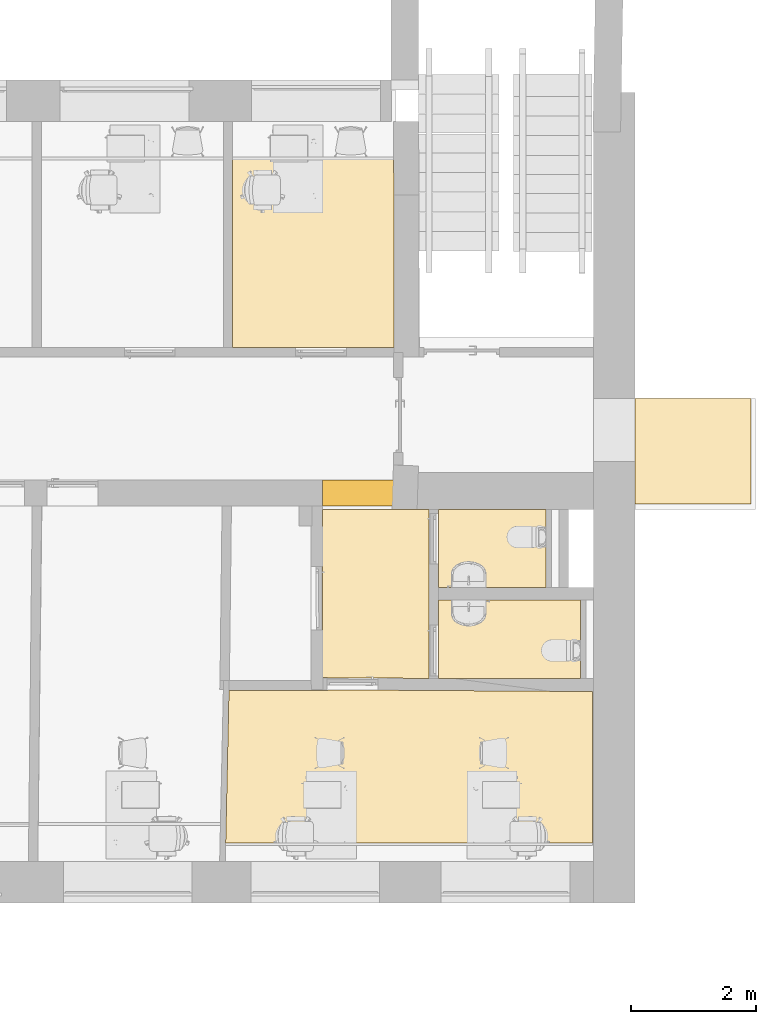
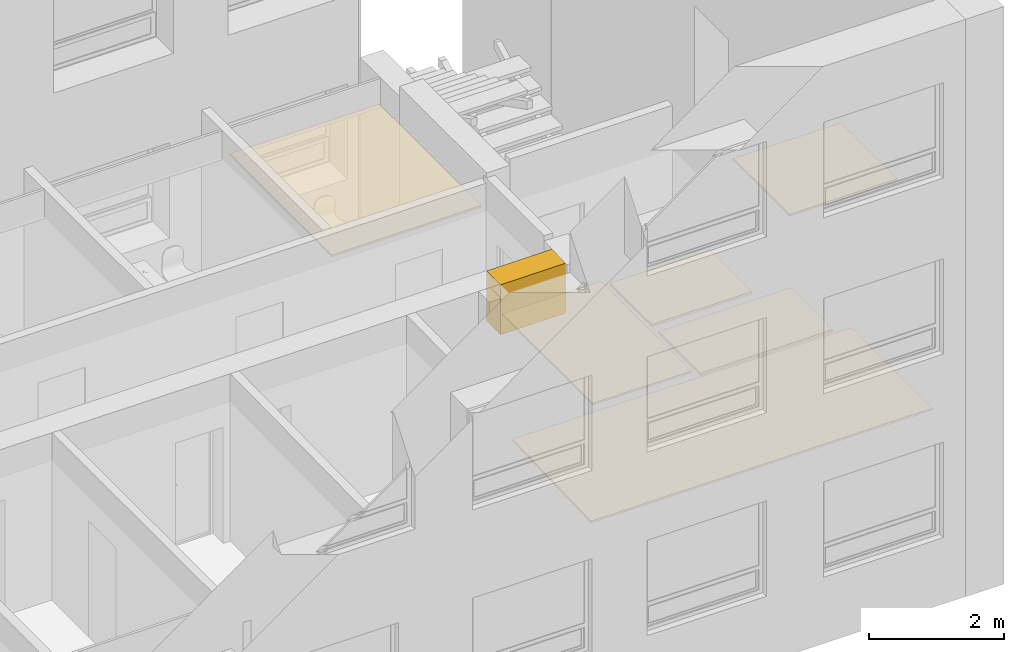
# One storey, part 21 of 25: 7 coverings.
"""IFC2X3 building model written with IfcOpenShell, lengths in millimetres."""

from ifc_helpers import new_model, entity, si_unit, converted_unit, derived_unit, direction, frame, frame_2d, origin, place, context, subcontext, project, spatial, polyline, rectangle, outline, extrude, material, layer, layer_set, layer_usage, element, save


model = new_model("IFC2X3")

# Units and contexts
model_context = context("Model", 3, precision=0.01, world=origin(), true_north=direction((6.12303176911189e-17, 1.0)))
context_of_model = context(None, 3, precision=0.01, world=origin(), true_north=direction((6.12303176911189e-17, 1.0)))
body_context = subcontext(model_context, "Body", "Model", "MODEL_VIEW")
ifc_project = project(units=[si_unit("LENGTHUNIT", "METRE", prefix="MILLI"), si_unit("AREAUNIT", "SQUARE_METRE"), si_unit("VOLUMEUNIT", "CUBIC_METRE"), converted_unit("PLANEANGLEUNIT", "DEGREE", entity("IfcRatioMeasure", 0.0174532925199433), si_unit("PLANEANGLEUNIT", "RADIAN"), dimensions=[0, 0, 0, 0, 0, 0, 0]), si_unit("MASSUNIT", "GRAM", prefix="KILO"), derived_unit("MASSDENSITYUNIT", [(si_unit("MASSUNIT", "GRAM", prefix="KILO"), 1), (si_unit("LENGTHUNIT", "METRE"), -3)]), si_unit("TIMEUNIT", "SECOND"), si_unit("FREQUENCYUNIT", "HERTZ"), si_unit("THERMODYNAMICTEMPERATUREUNIT", "DEGREE_CELSIUS"), derived_unit("THERMALTRANSMITTANCEUNIT", [(si_unit("MASSUNIT", "GRAM", prefix="KILO"), 1), (si_unit("THERMODYNAMICTEMPERATUREUNIT", "KELVIN"), -1), (si_unit("TIMEUNIT", "SECOND"), -3)]), derived_unit("VOLUMETRICFLOWRATEUNIT", [(si_unit("LENGTHUNIT", "METRE"), 3), (si_unit("TIMEUNIT", "SECOND"), -1)]), si_unit("ELECTRICCURRENTUNIT", "AMPERE"), si_unit("ELECTRICVOLTAGEUNIT", "VOLT"), si_unit("POWERUNIT", "WATT"), si_unit("FORCEUNIT", "NEWTON", prefix="KILO"), si_unit("ILLUMINANCEUNIT", "LUX"), si_unit("LUMINOUSFLUXUNIT", "LUMEN"), si_unit("LUMINOUSINTENSITYUNIT", "CANDELA"), derived_unit("USERDEFINED", [(si_unit("MASSUNIT", "GRAM", prefix="KILO"), -1), (si_unit("LENGTHUNIT", "METRE"), -2), (si_unit("TIMEUNIT", "SECOND"), 3), (si_unit("LUMINOUSFLUXUNIT", "LUMEN"), 1)]), derived_unit("LINEARVELOCITYUNIT", [(si_unit("LENGTHUNIT", "METRE"), 1), (si_unit("TIMEUNIT", "SECOND"), -1)]), si_unit("PRESSUREUNIT", "PASCAL"), derived_unit("USERDEFINED", [(si_unit("LENGTHUNIT", "METRE"), -2), (si_unit("MASSUNIT", "GRAM", prefix="KILO"), 1), (si_unit("TIMEUNIT", "SECOND"), -2)])], contexts=[model_context, context_of_model])

# Site, building, storey
site_placement = place(None, frame((121442.264707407, 135347.995453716, -1800.0)))
site = spatial("IfcSite", under=ifc_project, at=site_placement, Name="Surface", CompositionType="ELEMENT")
building_placement = place(site_placement, origin())
building = spatial("IfcBuilding", under=site, at=building_placement, CompositionType="ELEMENT")
storey_placement = place(building_placement, frame((0.0, 0.0, 1800.0)))
storey = spatial("IfcBuildingStorey", under=building, at=storey_placement, Name="1 korrus", CompositionType="ELEMENT", Elevation=1800.00000000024)

# Coverings
covering_1_placement = place(storey_placement, origin())
element("IfcCovering", 1, at=covering_1_placement, inside=storey, Name="Ceilings 15:Ceilings 15", ObjectType="Ceilings 15:Ceilings 15", PredefinedType="CEILING", context=body_context, shape_type="SweptSolid", body=[
    extrude(outline(polyline([(-567.72069098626, -208.61999355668), (561.529650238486, -208.61999355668), (560.416384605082, 208.61999355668), (-554.225343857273, 208.61999355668), (-567.72069098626, -208.61999355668)])), frame((-86283.7571484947, -121262.679862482, 2122.80512963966), z_axis=(0.0, 0.0, 1.0), x_axis=(-1.0, 0.0, 0.0)), (0.0, 0.0, 1.0), 903.003486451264),
])
ifc_material_1 = material(Name="EST. Ripplagi. Moodullagi. 600 x 600 mm")
ifc_layer_1 = layer(ifc_material_1, 35.0)
ifc_layer_set_1 = layer_set([ifc_layer_1], Name="Compound Ceiling:600x600 Focus")
ifc_layer_usage_1 = layer_usage(ifc_layer_set_1, "AXIS3", "POSITIVE", 0.0)
covering_2_placement = place(storey_placement, origin())
element("IfcCovering", 2, at=covering_2_placement, inside=storey, material=ifc_layer_usage_1, Name="Compound Ceiling:600x600 Focus", ObjectType="Compound Ceiling:600x600 Focus", PredefinedType="CEILING", context=body_context, shape_type="SweptSolid", body=[
    extrude(outline(polyline([(-1335.18502354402, -1540.72754340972), (1702.13110840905, -1540.72754340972), (1702.13110840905, 1027.99685197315), (-733.892169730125, 1027.99685197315), (-1335.18502354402, 1025.46138287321), (-1335.18502354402, -1540.72754340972)])), frame((-86738.2717563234, -117242.637456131, 2500.0), z_axis=(0.0, 0.0, 1.0), x_axis=(0.0, -1.0, 0.0)), (0.0, 0.0, 1.0), 35.0000000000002),
])
ifc_layer_usage_2 = layer_usage(ifc_layer_set_1, "AXIS3", "POSITIVE", 0.0)
covering_3_placement = place(storey_placement, origin())
element("IfcCovering", 3, at=covering_3_placement, inside=storey, material=ifc_layer_usage_2, Name="Compound Ceiling:600x600 Focus", ObjectType="Compound Ceiling:600x600 Focus", PredefinedType="CEILING", context=body_context, shape_type="SweptSolid", body=[
    extrude(outline(polyline([(841.425272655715, -821.963049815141), (3160.74573644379, -821.963049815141), (3221.61448346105, 1604.61820244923), (-2628.06119424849, 1624.63873485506), (-2636.33046024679, -791.507010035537), (-1959.39383806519, -793.823827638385), (841.425272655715, -821.963049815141)])), frame((-85174.3088738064, -125220.346290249, 2500.0), z_axis=(0.0, 0.0, 1.0), x_axis=(-0.999994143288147, -0.00342248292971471, 0.0)), (0.0, 0.0, 1.0), 35.0000000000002),
])

# Space
space_1_placement = place(storey_placement, origin())
space_1 = spatial("IfcSpace", under=storey, at=space_1_placement, Name="104", CompositionType="ELEMENT", InteriorOrExteriorSpace="INTERNAL")

# Covering
ifc_material_2 = material(Name="Default")
ifc_layer_2 = layer(ifc_material_2, 36.0)
ifc_material_3 = material(Name="Ceiling Tile 600 x 600")
ifc_layer_3 = layer(ifc_material_3, 8.0)
ifc_layer_set_2 = layer_set([ifc_layer_2, ifc_layer_3], Name="Compound Ceiling:600 x 600mm Vinyyl")
ifc_layer_usage_3 = layer_usage(ifc_layer_set_2, "AXIS3", "POSITIVE", 0.0)
covering_4_placement = place(space_1_placement, origin())
element("IfcCovering", 4, at=covering_4_placement, inside=space_1, material=ifc_layer_usage_3, Name="Compound Ceiling:600 x 600mm Vinyyl", ObjectType="Compound Ceiling:600 x 600mm Vinyyl", PredefinedType="CEILING", context=body_context, shape_type="SweptSolid", body=[
    extrude(rectangle(XDim=1717.80660036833, YDim=1242.46563184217, at=frame_2d((-8.69704308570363e-12, -8.69704308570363e-12), x_axis=(1.0, 0.0))), frame((-84142.3836802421, -122145.332748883, 2400.0)), (0.0, 0.0, 1.0), 43.9999999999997),
])

# Space
space_2_placement = place(storey_placement, origin())
space_2 = spatial("IfcSpace", under=storey, at=space_2_placement, Name="103", CompositionType="ELEMENT", InteriorOrExteriorSpace="INTERNAL")

# Coverings
ifc_layer_usage_4 = layer_usage(ifc_layer_set_2, "AXIS3", "POSITIVE", 0.0)
covering_5_placement = place(space_2_placement, origin())
element("IfcCovering", 5, at=covering_5_placement, inside=space_2, material=ifc_layer_usage_4, Name="Compound Ceiling:600 x 600mm Vinyyl", ObjectType="Compound Ceiling:600 x 600mm Vinyyl", PredefinedType="CEILING", context=body_context, shape_type="SweptSolid", body=[
    extrude(outline(polyline([(-501.666045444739, -1305.75936003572), (751.589509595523, -1305.75936003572), (751.589509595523, 962.047240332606), (-499.846928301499, 962.047240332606), (-501.666045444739, 687.424239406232), (-501.666045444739, -1305.75936003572)])), frame((-84039.2397400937, -123718.1550744, 2400.0), z_axis=(0.0, 0.0, 1.0), x_axis=(0.0, 1.0, 0.0)), (0.0, 0.0, 1.0), 43.9999999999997),
])
ifc_layer_usage_5 = layer_usage(ifc_layer_set_1, "AXIS3", "POSITIVE", 0.0)
covering_6_placement = place(storey_placement, origin())
element("IfcCovering", 6, at=covering_6_placement, inside=storey, material=ifc_layer_usage_5, Name="Compound Ceiling:600x600 Focus", ObjectType="Compound Ceiling:600x600 Focus", PredefinedType="CEILING", context=body_context, shape_type="SweptSolid", body=[
    extrude(outline(polyline([(-846.372836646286, -1342.80320900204), (846.372836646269, -1342.80320900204), (846.372836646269, 1337.19679099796), (-846.372836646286, 1348.40962700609), (-846.372836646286, -1342.80320900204)])), frame((-85997.6598170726, -122866.903141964, 2500.0), z_axis=(0.0, 0.0, 1.0), x_axis=(-1.0, 0.0, 0.0)), (0.0, 0.0, 1.0), 35.0000000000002),
])
ifc_layer_usage_6 = layer_usage(ifc_layer_set_1, "AXIS3", "POSITIVE", 0.0)
covering_7_placement = place(storey_placement, origin())
element("IfcCovering", 7, at=covering_7_placement, inside=storey, material=ifc_layer_usage_6, Name="Compound Ceiling:600x600 Focus", ObjectType="Compound Ceiling:600x600 Focus", PredefinedType="CEILING", context=body_context, shape_type="SweptSolid", body=[
    extrude(rectangle(XDim=1848.69919651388, YDim=1677.8104640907, at=frame_2d((-8.64019966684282e-12, -1.73372427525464e-11), x_axis=(1.0, 0.0))), frame((-80941.630781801, -120594.194700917, 2500.0)), (0.0, 0.0, 1.0), 35.0000000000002),
])

save(model, "model.ifc")
